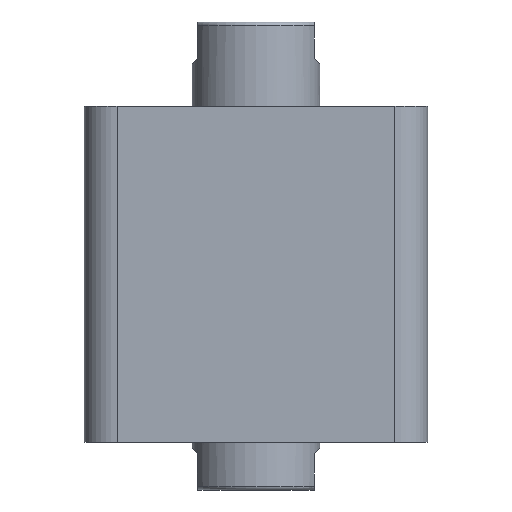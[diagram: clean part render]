
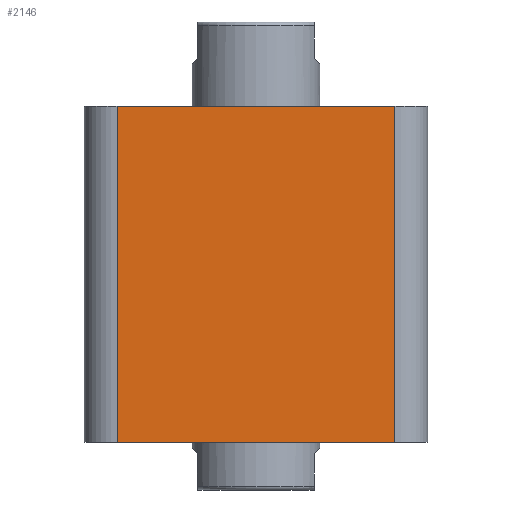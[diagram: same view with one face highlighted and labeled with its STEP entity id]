
A CAD part, front view. The second image highlights one B-rep face of the part: STEP entity #2146.
In plain terms, the highlighted planar face has unit normal (0, -1, 0).
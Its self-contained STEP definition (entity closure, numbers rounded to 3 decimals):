
#495 = CARTESIAN_POINT ( 'NONE',  ( -47., -47., 92. ) ) ;
#501 = PLANE ( 'NONE',  #3064 ) ;
#503 = CARTESIAN_POINT ( 'NONE',  ( -38., -47., 92. ) ) ;
#504 = DIRECTION ( 'NONE',  ( 0., 1., 0. ) ) ;
#505 = DIRECTION ( 'NONE',  ( 0., 0., 1. ) ) ;
#1013 = LINE ( 'NONE', #2443, #1026 ) ;
#1019 = LINE ( 'NONE', #2453, #1022 ) ;
#1021 = LINE ( 'NONE', #2455, #1024 ) ;
#1022 = VECTOR ( 'NONE', #2454, 1000. ) ;
#1024 = VECTOR ( 'NONE', #2456, 1000. ) ;
#1025 = LINE ( 'NONE', #2458, #1028 ) ;
#1026 = VECTOR ( 'NONE', #2457, 1000. ) ;
#1028 = VECTOR ( 'NONE', #2459, 1000. ) ;
#1245 = FACE_OUTER_BOUND ( 'NONE', #2932, .T. ) ;
#1467 = CARTESIAN_POINT ( 'NONE',  ( 38., -47., 92. ) ) ;
#1470 = CARTESIAN_POINT ( 'NONE',  ( -38., -47., 0. ) ) ;
#1471 = CARTESIAN_POINT ( 'NONE',  ( 38., -47., 0. ) ) ;
#1635 = VERTEX_POINT ( 'NONE', #1471 ) ;
#1636 = VERTEX_POINT ( 'NONE', #1470 ) ;
#1639 = VERTEX_POINT ( 'NONE', #1467 ) ;
#1866 = EDGE_CURVE ( 'NONE', #2229, #1639, #1019, .T. ) ;
#1867 = EDGE_CURVE ( 'NONE', #2229, #1636, #1021, .T. ) ;
#1868 = EDGE_CURVE ( 'NONE', #1636, #1635, #1013, .T. ) ;
#1869 = EDGE_CURVE ( 'NONE', #1635, #1639, #1025, .T. ) ;
#2146 = ADVANCED_FACE ( 'NONE', ( #1245 ), #501, .F. ) ;
#2229 = VERTEX_POINT ( 'NONE', #503 ) ;
#2443 = CARTESIAN_POINT ( 'NONE',  ( -47., -47., 0. ) ) ;
#2453 = CARTESIAN_POINT ( 'NONE',  ( -47., -47., 92. ) ) ;
#2454 = DIRECTION ( 'NONE',  ( 1., 0., 0. ) ) ;
#2455 = CARTESIAN_POINT ( 'NONE',  ( -38., -47., 92. ) ) ;
#2456 = DIRECTION ( 'NONE',  ( 0., 0., -1. ) ) ;
#2457 = DIRECTION ( 'NONE',  ( 1., 0., 0. ) ) ;
#2458 = CARTESIAN_POINT ( 'NONE',  ( 38., -47., 92. ) ) ;
#2459 = DIRECTION ( 'NONE',  ( 0., 0., 1. ) ) ;
#2725 = ORIENTED_EDGE ( 'NONE', *, *, #1866, .F. ) ;
#2761 = ORIENTED_EDGE ( 'NONE', *, *, #1867, .T. ) ;
#2766 = ORIENTED_EDGE ( 'NONE', *, *, #1868, .T. ) ;
#2775 = ORIENTED_EDGE ( 'NONE', *, *, #1869, .T. ) ;
#2932 = EDGE_LOOP ( 'NONE', ( #2725, #2761, #2766, #2775 ) ) ;
#3064 = AXIS2_PLACEMENT_3D ( 'NONE', #495, #504, #505 ) ;
